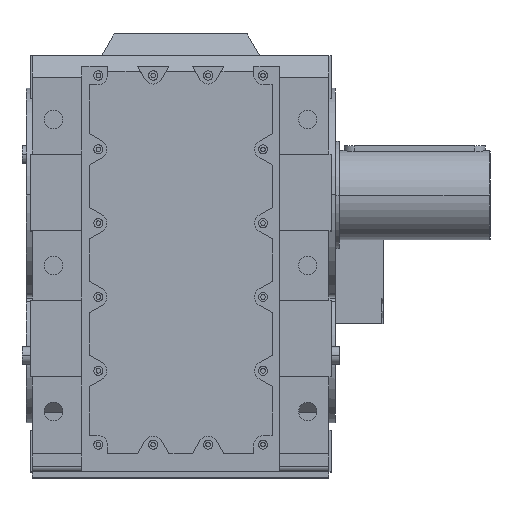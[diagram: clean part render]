
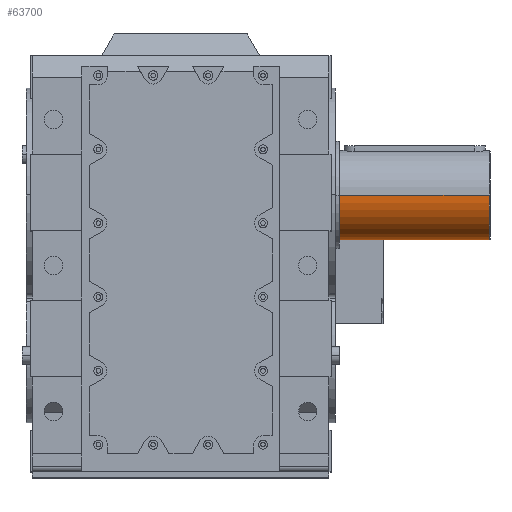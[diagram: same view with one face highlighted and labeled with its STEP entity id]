
A CAD part, top view. The second image highlights one B-rep face of the part: STEP entity #63700.
In plain terms, the highlighted cylindrical face has radius 95 mm (diameter 190 mm), a partial arc.
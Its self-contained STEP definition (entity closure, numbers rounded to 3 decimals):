
#62710 = PLANE('',#62711);
#62711 = AXIS2_PLACEMENT_3D('',#62712,#62713,#62714);
#62712 = CARTESIAN_POINT('',(337.,95.,0.));
#62713 = DIRECTION('',(-1.,0.,0.));
#62714 = DIRECTION('',(0.,0.,1.));
#62796 = VERTEX_POINT('',#62797);
#62797 = CARTESIAN_POINT('',(337.,0.,95.));
#62798 = VERTEX_POINT('',#62799);
#62799 = CARTESIAN_POINT('',(337.,0.,-95.));
#62814 = CYLINDRICAL_SURFACE('',#62815,95.);
#62815 = AXIS2_PLACEMENT_3D('',#62816,#62817,#62818);
#62816 = CARTESIAN_POINT('',(0.,0.,0.));
#62817 = DIRECTION('',(-1.,0.,0.));
#62818 = DIRECTION('',(0.,0.,1.));
#62825 = EDGE_CURVE('',#62798,#62796,#62826,.T.);
#62826 = SURFACE_CURVE('',#62827,(#62832,#62839),.PCURVE_S1.);
#62827 = CIRCLE('',#62828,95.);
#62828 = AXIS2_PLACEMENT_3D('',#62829,#62830,#62831);
#62829 = CARTESIAN_POINT('',(337.,0.,0.));
#62830 = DIRECTION('',(-1.,0.,0.));
#62831 = DIRECTION('',(0.,0.,1.));
#62832 = PCURVE('',#62710,#62833);
#62833 = DEFINITIONAL_REPRESENTATION('',(#62834),#62838);
#62834 = CIRCLE('',#62835,95.);
#62835 = AXIS2_PLACEMENT_2D('',#62836,#62837);
#62836 = CARTESIAN_POINT('',(0.,-95.));
#62837 = DIRECTION('',(1.,0.));
#62838 = ( GEOMETRIC_REPRESENTATION_CONTEXT(2) 
PARAMETRIC_REPRESENTATION_CONTEXT() REPRESENTATION_CONTEXT('2D SPACE',''
  ) );
#62839 = PCURVE('',#62840,#62845);
#62840 = CYLINDRICAL_SURFACE('',#62841,95.);
#62841 = AXIS2_PLACEMENT_3D('',#62842,#62843,#62844);
#62842 = CARTESIAN_POINT('',(0.,0.,0.));
#62843 = DIRECTION('',(-1.,0.,0.));
#62844 = DIRECTION('',(0.,0.,1.));
#62845 = DEFINITIONAL_REPRESENTATION('',(#62846),#62849);
#62846 = B_SPLINE_CURVE_WITH_KNOTS('',1,(#62847,#62848),.UNSPECIFIED.,
  .F.,.F.,(2,2),(3.142,6.283),.PIECEWISE_BEZIER_KNOTS.);
#62847 = CARTESIAN_POINT('',(3.142,-337.));
#62848 = CARTESIAN_POINT('',(6.283,-337.));
#62849 = ( GEOMETRIC_REPRESENTATION_CONTEXT(2) 
PARAMETRIC_REPRESENTATION_CONTEXT() REPRESENTATION_CONTEXT('2D SPACE',''
  ) );
#63611 = VERTEX_POINT('',#63612);
#63612 = CARTESIAN_POINT('',(655.5,0.,95.));
#63613 = VERTEX_POINT('',#63614);
#63614 = CARTESIAN_POINT('',(655.5,0.,-95.));
#63662 = EDGE_CURVE('',#63613,#62798,#63663,.T.);
#63663 = SURFACE_CURVE('',#63664,(#63668,#63674),.PCURVE_S1.);
#63664 = LINE('',#63665,#63666);
#63665 = CARTESIAN_POINT('',(0.,0.,-95.));
#63666 = VECTOR('',#63667,1.);
#63667 = DIRECTION('',(-1.,0.,0.));
#63668 = PCURVE('',#62814,#63669);
#63669 = DEFINITIONAL_REPRESENTATION('',(#63670),#63673);
#63670 = B_SPLINE_CURVE_WITH_KNOTS('',1,(#63671,#63672),.UNSPECIFIED.,
  .F.,.F.,(2,2),(-655.5,-337.),.PIECEWISE_BEZIER_KNOTS.);
#63671 = CARTESIAN_POINT('',(3.142,-655.5));
#63672 = CARTESIAN_POINT('',(3.142,-337.));
#63673 = ( GEOMETRIC_REPRESENTATION_CONTEXT(2) 
PARAMETRIC_REPRESENTATION_CONTEXT() REPRESENTATION_CONTEXT('2D SPACE',''
  ) );
#63674 = PCURVE('',#62840,#63675);
#63675 = DEFINITIONAL_REPRESENTATION('',(#63676),#63679);
#63676 = B_SPLINE_CURVE_WITH_KNOTS('',1,(#63677,#63678),.UNSPECIFIED.,
  .F.,.F.,(2,2),(-655.5,-337.),.PIECEWISE_BEZIER_KNOTS.);
#63677 = CARTESIAN_POINT('',(3.142,-655.5));
#63678 = CARTESIAN_POINT('',(3.142,-337.));
#63679 = ( GEOMETRIC_REPRESENTATION_CONTEXT(2) 
PARAMETRIC_REPRESENTATION_CONTEXT() REPRESENTATION_CONTEXT('2D SPACE',''
  ) );
#63682 = EDGE_CURVE('',#63611,#62796,#63683,.T.);
#63683 = SURFACE_CURVE('',#63684,(#63688,#63694),.PCURVE_S1.);
#63684 = LINE('',#63685,#63686);
#63685 = CARTESIAN_POINT('',(0.,0.,95.));
#63686 = VECTOR('',#63687,1.);
#63687 = DIRECTION('',(-1.,0.,0.));
#63688 = PCURVE('',#62814,#63689);
#63689 = DEFINITIONAL_REPRESENTATION('',(#63690),#63693);
#63690 = B_SPLINE_CURVE_WITH_KNOTS('',1,(#63691,#63692),.UNSPECIFIED.,
  .F.,.F.,(2,2),(-655.5,-337.),.PIECEWISE_BEZIER_KNOTS.);
#63691 = CARTESIAN_POINT('',(0.,-655.5));
#63692 = CARTESIAN_POINT('',(0.,-337.));
#63693 = ( GEOMETRIC_REPRESENTATION_CONTEXT(2) 
PARAMETRIC_REPRESENTATION_CONTEXT() REPRESENTATION_CONTEXT('2D SPACE',''
  ) );
#63694 = PCURVE('',#62840,#63695);
#63695 = DEFINITIONAL_REPRESENTATION('',(#63696),#63699);
#63696 = B_SPLINE_CURVE_WITH_KNOTS('',1,(#63697,#63698),.UNSPECIFIED.,
  .F.,.F.,(2,2),(-655.5,-337.),.PIECEWISE_BEZIER_KNOTS.);
#63697 = CARTESIAN_POINT('',(6.283,-655.5));
#63698 = CARTESIAN_POINT('',(6.283,-337.));
#63699 = ( GEOMETRIC_REPRESENTATION_CONTEXT(2) 
PARAMETRIC_REPRESENTATION_CONTEXT() REPRESENTATION_CONTEXT('2D SPACE',''
  ) );
#63700 = ADVANCED_FACE('',(#63701),#62840,.T.);
#63701 = FACE_BOUND('',#63702,.T.);
#63702 = EDGE_LOOP('',(#63703,#63704,#63752,#63753));
#63703 = ORIENTED_EDGE('',*,*,#63662,.F.);
#63704 = ORIENTED_EDGE('',*,*,#63705,.T.);
#63705 = EDGE_CURVE('',#63613,#63611,#63706,.T.);
#63706 = SURFACE_CURVE('',#63707,(#63712,#63718),.PCURVE_S1.);
#63707 = CIRCLE('',#63708,95.);
#63708 = AXIS2_PLACEMENT_3D('',#63709,#63710,#63711);
#63709 = CARTESIAN_POINT('',(655.5,0.,0.));
#63710 = DIRECTION('',(-1.,0.,0.));
#63711 = DIRECTION('',(0.,0.,1.));
#63712 = PCURVE('',#62840,#63713);
#63713 = DEFINITIONAL_REPRESENTATION('',(#63714),#63717);
#63714 = B_SPLINE_CURVE_WITH_KNOTS('',1,(#63715,#63716),.UNSPECIFIED.,
  .F.,.F.,(2,2),(3.142,6.283),.PIECEWISE_BEZIER_KNOTS.);
#63715 = CARTESIAN_POINT('',(3.142,-655.5));
#63716 = CARTESIAN_POINT('',(6.283,-655.5));
#63717 = ( GEOMETRIC_REPRESENTATION_CONTEXT(2) 
PARAMETRIC_REPRESENTATION_CONTEXT() REPRESENTATION_CONTEXT('2D SPACE',''
  ) );
#63718 = PCURVE('',#63719,#63724);
#63719 = CONICAL_SURFACE('',#63720,93.5,0.785);
#63720 = AXIS2_PLACEMENT_3D('',#63721,#63722,#63723);
#63721 = CARTESIAN_POINT('',(657.,0.,0.));
#63722 = DIRECTION('',(-1.,0.,0.));
#63723 = DIRECTION('',(0.,0.,1.));
#63724 = DEFINITIONAL_REPRESENTATION('',(#63725),#63751);
#63725 = B_SPLINE_CURVE_WITH_KNOTS('',3,(#63726,#63727,#63728,#63729,
    #63730,#63731,#63732,#63733,#63734,#63735,#63736,#63737,#63738,
    #63739,#63740,#63741,#63742,#63743,#63744,#63745,#63746,#63747,
    #63748,#63749,#63750),.UNSPECIFIED.,.F.,.F.,(4,1,1,1,1,1,1,1,1,1,1,1
    ,1,1,1,1,1,1,1,1,1,1,4),(3.142,3.284,3.427
    ,3.57,3.713,3.856,3.998,
    4.141,4.284,4.427,4.57,
    4.712,4.855,4.998,5.141,
    5.284,5.426,5.569,5.712,
    5.855,5.998,6.14,6.283),
  .QUASI_UNIFORM_KNOTS.);
#63726 = CARTESIAN_POINT('',(3.142,1.5));
#63727 = CARTESIAN_POINT('',(3.189,1.5));
#63728 = CARTESIAN_POINT('',(3.284,1.5));
#63729 = CARTESIAN_POINT('',(3.427,1.5));
#63730 = CARTESIAN_POINT('',(3.57,1.5));
#63731 = CARTESIAN_POINT('',(3.713,1.5));
#63732 = CARTESIAN_POINT('',(3.856,1.5));
#63733 = CARTESIAN_POINT('',(3.998,1.5));
#63734 = CARTESIAN_POINT('',(4.141,1.5));
#63735 = CARTESIAN_POINT('',(4.284,1.5));
#63736 = CARTESIAN_POINT('',(4.427,1.5));
#63737 = CARTESIAN_POINT('',(4.57,1.5));
#63738 = CARTESIAN_POINT('',(4.712,1.5));
#63739 = CARTESIAN_POINT('',(4.855,1.5));
#63740 = CARTESIAN_POINT('',(4.998,1.5));
#63741 = CARTESIAN_POINT('',(5.141,1.5));
#63742 = CARTESIAN_POINT('',(5.284,1.5));
#63743 = CARTESIAN_POINT('',(5.426,1.5));
#63744 = CARTESIAN_POINT('',(5.569,1.5));
#63745 = CARTESIAN_POINT('',(5.712,1.5));
#63746 = CARTESIAN_POINT('',(5.855,1.5));
#63747 = CARTESIAN_POINT('',(5.998,1.5));
#63748 = CARTESIAN_POINT('',(6.14,1.5));
#63749 = CARTESIAN_POINT('',(6.236,1.5));
#63750 = CARTESIAN_POINT('',(6.283,1.5));
#63751 = ( GEOMETRIC_REPRESENTATION_CONTEXT(2) 
PARAMETRIC_REPRESENTATION_CONTEXT() REPRESENTATION_CONTEXT('2D SPACE',''
  ) );
#63752 = ORIENTED_EDGE('',*,*,#63682,.T.);
#63753 = ORIENTED_EDGE('',*,*,#62825,.F.);
